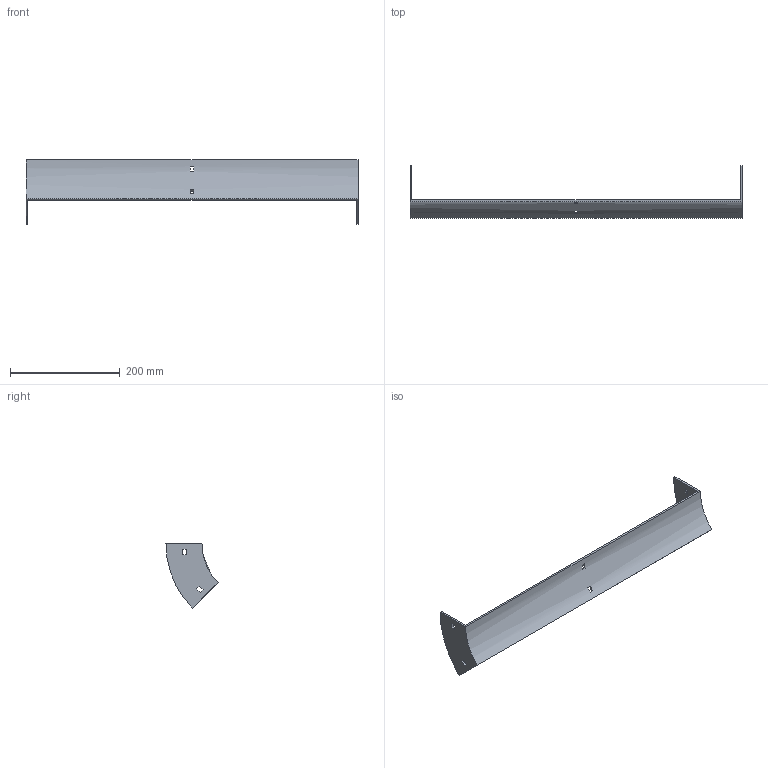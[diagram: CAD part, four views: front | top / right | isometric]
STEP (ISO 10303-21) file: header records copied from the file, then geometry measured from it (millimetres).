
FILE_DESCRIPTION (( 'STEP AP214' ), '1' );
FILE_NAME ('34B1H600.step', '2025-02-21T09:29:10', ( '' ), ( '' ), 'SwSTEP 2.0', 'SolidWorks 2023', '' );
FILE_SCHEMA (( 'AUTOMOTIVE_DESIGN' ));
Length unit declared in the file: millimetre
Products named in the file (1): 34B1H600
Bounding box: 604 x 94.79 x 117.03 mm (x, y, z)
Volume: 213389.7 mm3; surface area: 128629.3 mm2
Topology: 1 solids, 1 shells, 34 faces, 96 edges, 64 vertices
Faces by surface type: plane 30, cylinder 4
Entity records: 1143 total; most frequent: CARTESIAN_POINT 195, ORIENTED_EDGE 192, DIRECTION 182, EDGE_CURVE 96, LINE 80, VECTOR 80, VERTEX_POINT 64, AXIS2_PLACEMENT_3D 51
